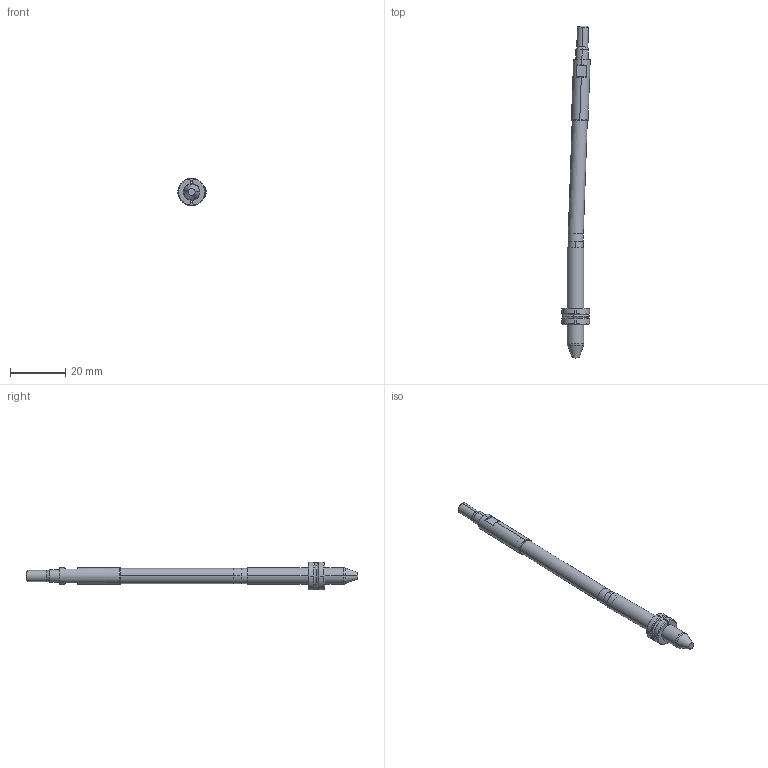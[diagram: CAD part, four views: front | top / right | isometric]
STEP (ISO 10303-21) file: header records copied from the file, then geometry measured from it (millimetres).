
FILE_DESCRIPTION (( 'STEP AP214' ), '1' );
FILE_NAME ('WP060030-EJE 2°.STEP', '2021-03-19T15:10:25', ( '' ), ( '' ), 'SwSTEP 2.0', 'SolidWorks 2019', '' );
FILE_SCHEMA (( 'AUTOMOTIVE_DESIGN' ));
Length unit declared in the file: millimetre
Products named in the file (6): WEB-002-9WP060030-2; WEB-007-9WP060030-F_WP060030-F-ON 2ø; WP060030-EJE 2°; WEB-006-9WP060030-6; WEB-008-JUNTA-JT7X1X9; WEB-001-9WP060030-1
Assembly tree (5 placements, depth 2):
  WP060030-EJE 2°
    WEB-001-9WP060030-1
    WEB-007-9WP060030-F_WP060030-F-ON 2ø
    WEB-002-9WP060030-2
    WEB-006-9WP060030-6
    WEB-008-JUNTA-JT7X1X9
Bounding box: 10.24 x 119.81 x 9.99 mm (x, y, z)
Volume: 3173.9 mm3; surface area: 2920.6 mm2
Topology: 6 solids, 6 shells, 112 faces, 262 edges, 164 vertices
Faces by surface type: cylinder 36, cone 28, plane 28, torus 20
Entity records: 3723 total; most frequent: CARTESIAN_POINT 714, DIRECTION 598, ORIENTED_EDGE 524, EDGE_CURVE 262, AXIS2_PLACEMENT_3D 256, VERTEX_POINT 164, CIRCLE 136, EDGE_LOOP 116
